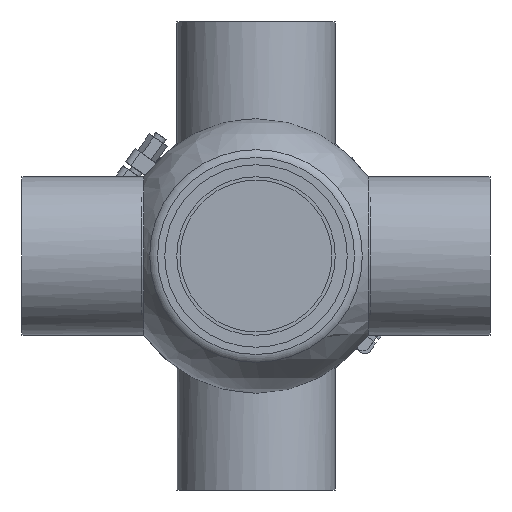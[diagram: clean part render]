
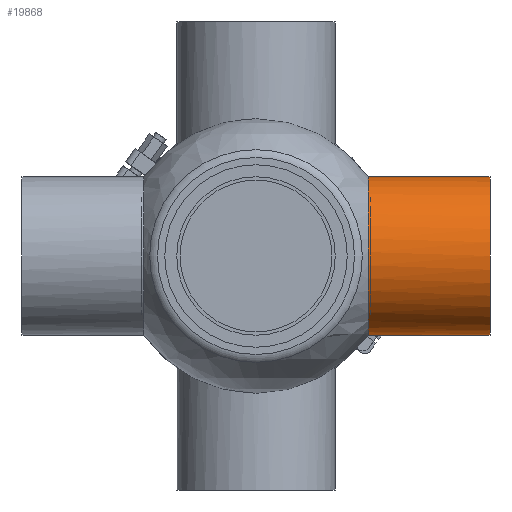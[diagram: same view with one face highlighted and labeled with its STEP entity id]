
A CAD part, front view. The second image highlights one B-rep face of the part: STEP entity #19868.
In plain terms, the highlighted cylindrical face has radius 50.8 mm (diameter 101.6 mm), a full revolution.
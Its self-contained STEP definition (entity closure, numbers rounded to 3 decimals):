
#2639 = VERTEX_POINT ( 'NONE', #48558 ) ;
#3596 = CARTESIAN_POINT ( 'NONE',  ( 150., 0., 0. ) ) ;
#4969 = CIRCLE ( 'NONE', #39856, 50.8 ) ;
#5136 = EDGE_LOOP ( 'NONE', ( #59589, #15255 ) ) ;
#5704 = FACE_OUTER_BOUND ( 'NONE', #5136, .T. ) ;
#14912 = AXIS2_PLACEMENT_3D ( 'NONE', #16006, #49523, #20045 ) ;
#15255 = ORIENTED_EDGE ( 'NONE', *, *, #35556, .T. ) ;
#16006 = CARTESIAN_POINT ( 'NONE',  ( 71.857, 0., 0. ) ) ;
#19868 = ADVANCED_FACE ( 'NONE', ( #5704, #29962 ), #24974, .T. ) ;
#20045 = DIRECTION ( 'NONE',  ( 0., 0., 1. ) ) ;
#20148 = CARTESIAN_POINT ( 'NONE',  ( 72.249, 50.799, 2.546 ) ) ;
#24491 = CARTESIAN_POINT ( 'NONE',  ( 72.086, 50.566, -5.032 ) ) ;
#24974 = CYLINDRICAL_SURFACE ( 'NONE', #25238, 50.8 ) ;
#25078 = CARTESIAN_POINT ( 'NONE',  ( 72.117, 50.611, 5.047 ) ) ;
#25238 = AXIS2_PLACEMENT_3D ( 'NONE', #57367, #25260, #43974 ) ;
#25260 = DIRECTION ( 'NONE',  ( -1., 0., 0. ) ) ;
#26924 = VERTEX_POINT ( 'NONE', #49590 ) ;
#28956 = EDGE_CURVE ( 'NONE', #51935, #51935, #4969, .T. ) ;
#29962 = FACE_OUTER_BOUND ( 'NONE', #47385, .T. ) ;
#30404 = CARTESIAN_POINT ( 'NONE',  ( 72.25, 50.801, -1.232 ) ) ;
#33252 = ORIENTED_EDGE ( 'NONE', *, *, #28956, .T. ) ;
#33873 = CARTESIAN_POINT ( 'NONE',  ( 71.857, 50.239, -7.53 ) ) ;
#34505 = CARTESIAN_POINT ( 'NONE',  ( 72.218, 50.755, -2.496 ) ) ;
#35556 = EDGE_CURVE ( 'NONE', #2639, #26924, #41723, .T. ) ;
#36640 = DIRECTION ( 'NONE',  ( 0., 0., 1. ) ) ;
#39856 = AXIS2_PLACEMENT_3D ( 'NONE', #3596, #55843, #36640 ) ;
#41723 = CIRCLE ( 'NONE', #14912, 50.8 ) ;
#42974 = CARTESIAN_POINT ( 'NONE',  ( 150., 0., 50.8 ) ) ;
#43974 = DIRECTION ( 'NONE',  ( 0., 0., 1. ) ) ;
#47385 = EDGE_LOOP ( 'NONE', ( #33252 ) ) ;
#48558 = CARTESIAN_POINT ( 'NONE',  ( 71.857, 50.239, 7.53 ) ) ;
#48715 = CARTESIAN_POINT ( 'NONE',  ( 71.857, 50.239, 7.53 ) ) ;
#49001 = CARTESIAN_POINT ( 'NONE',  ( 71.987, 50.425, -6.29 ) ) ;
#49523 = DIRECTION ( 'NONE',  ( 1., 0., 0. ) ) ;
#49590 = CARTESIAN_POINT ( 'NONE',  ( 71.857, 50.239, -7.53 ) ) ;
#51520 = EDGE_CURVE ( 'NONE', #26924, #2639, #51808, .T. ) ;
#51808 = B_SPLINE_CURVE_WITH_KNOTS ( 'NONE', 3,
 ( #33873, #49001, #24491, #34505, #30404, #20148, #25078, #48715 ),
 .UNSPECIFIED., .F., .F.,
 ( 4, 2, 2, 4 ),
 ( 0.011, 0.015, 0.018, 0.026 ),
 .UNSPECIFIED. ) ;
#51935 = VERTEX_POINT ( 'NONE', #42974 ) ;
#55843 = DIRECTION ( 'NONE',  ( -1., 0., 0. ) ) ;
#57367 = CARTESIAN_POINT ( 'NONE',  ( 0., 0., 0. ) ) ;
#59589 = ORIENTED_EDGE ( 'NONE', *, *, #51520, .T. ) ;
